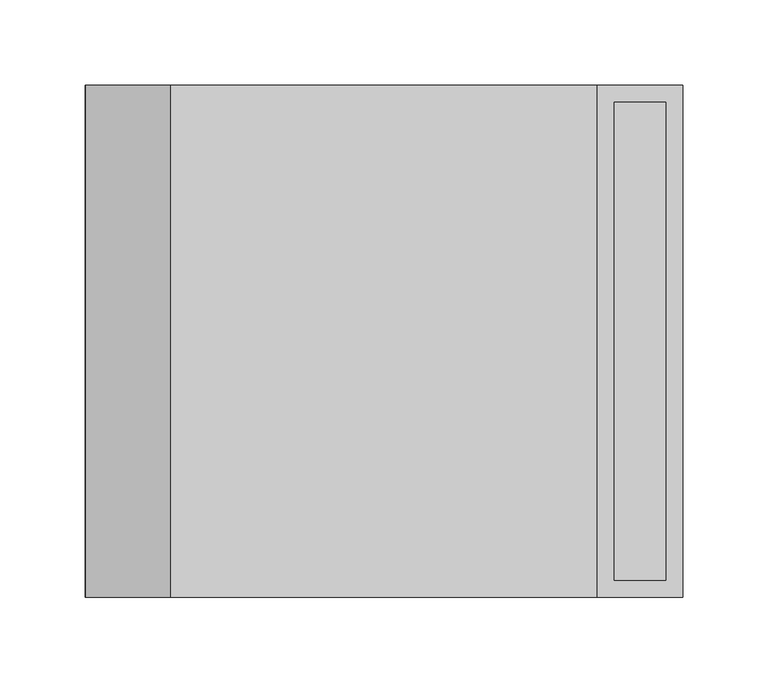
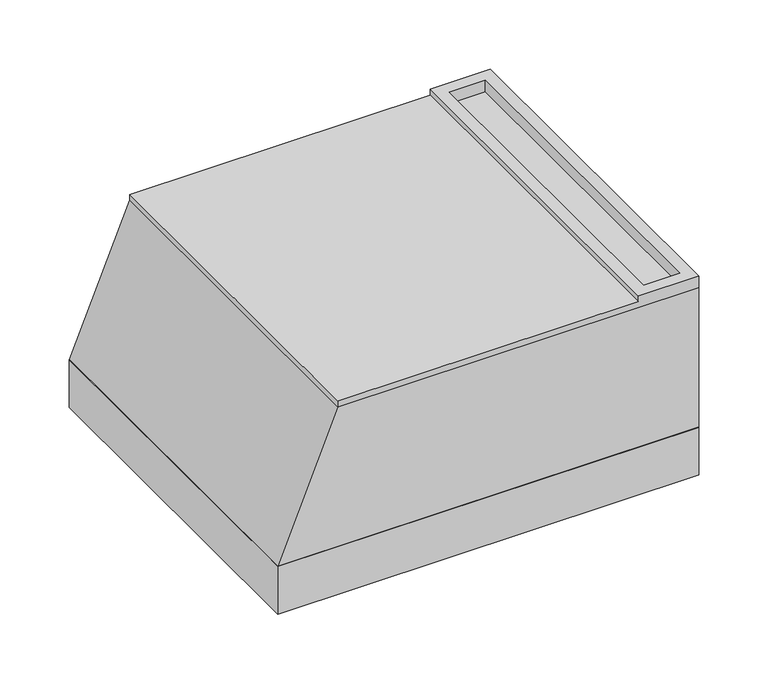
"""IFC4 building model written with IfcOpenShell, lengths in millimetres: cable carrier fitting geometry, BAKS_Universal elbow : KRUMJ_H42."""

import ifcopenshell
import ifcopenshell.guid

model = None  # the IFC model being written
_history = None  # IfcOwnerHistory: only IFC2X3 demands one
_inside = {}  # id of a spatial element -> (the spatial element, [elements in it])
_under = {}  # id of a project, library or spatial element -> (it, [spatial elements below it])
_declared = {}  # id of a project -> (the project, [libraries it declares])
_typed = {}  # id of a type object -> (the type object, [elements of that type])
_made_of = {}  # id of a material, layer set ... -> (it, [elements and type objects made of it])


def new_model(schema):
    """Start an empty IFC model of exactly this schema.

    Asked for "IFC4X3", IfcOpenShell would pick the latest addendum, in which some entities
    have other attributes; the version numbers below select the first issue.
    IFC2X3 requires an IfcOwnerHistory on every rooted entity: one is made here for all.
    """
    global model, _history
    if schema == "IFC4X3":
        model = ifcopenshell.file(schema_version=(4, 3, 0, 0))
    else:
        model = ifcopenshell.file(schema=schema)
    _inside.clear()
    _under.clear()
    _declared.clear()
    _typed.clear()
    _made_of.clear()
    _history = None
    if model.schema == "IFC2X3":
        org = make("IfcOrganization", Name="unknown")
        user = make(
            "IfcPersonAndOrganization",
            ThePerson=make("IfcPerson", FamilyName="unknown"),
            TheOrganization=org,
        )
        app = make(
            "IfcApplication",
            ApplicationDeveloper=org,
            Version="unknown",
            ApplicationFullName="unknown",
            ApplicationIdentifier="unknown",
        )
        _history = make(
            "IfcOwnerHistory",
            OwningUser=user,
            OwningApplication=app,
            ChangeAction="ADDED",
            CreationDate=0,
        )
    return model


def make(cls, **values):
    """One entity of the class cls with the attributes given. An attribute that is None is left unset."""
    return model.create_entity(
        cls, **{name: value for name, value in values.items() if value is not None}
    )


def rooted(cls, **values):
    """An entity with a GlobalId (a new one), such as an element, a storey or a relation."""
    return make(cls, GlobalId=ifcopenshell.guid.new(), OwnerHistory=_history, **values)


def si_unit(unit_type, name, prefix=None):
    """IfcSIUnit, for example si_unit("LENGTHUNIT", "METRE", prefix="MILLI")."""
    return make("IfcSIUnit", UnitType=unit_type, Prefix=prefix, Name=name)


def assignment(units):
    """IfcUnitAssignment: the units of a project."""
    return None if units is None else make("IfcUnitAssignment", Units=units)


def point(xyz):
    """IfcCartesianPoint."""
    return None if xyz is None else make("IfcCartesianPoint", Coordinates=xyz)


def direction(xyz):
    """IfcDirection."""
    return None if xyz is None else make("IfcDirection", DirectionRatios=xyz)


def frame(location, z_axis=None, x_axis=None):
    """IfcAxis2Placement3D, a coordinate frame: its origin and axes. An axis left out is left unset."""
    return make(
        "IfcAxis2Placement3D",
        Location=point(location),
        Axis=direction(z_axis),
        RefDirection=direction(x_axis),
    )


def origin():
    """The frame at (0, 0, 0) with its axes left unset."""
    return frame((0.0, 0.0, 0.0))


def place(relative_to, where):
    """IfcLocalPlacement: puts the frame where relative to a parent placement (None: the world)."""
    return make(
        "IfcLocalPlacement", PlacementRelTo=relative_to, RelativePlacement=where
    )


def context(
    kind, dimensions, precision=None, world=None, true_north=None, identifier=None
):
    """IfcGeometricRepresentationContext, for example the 3D "Model" context."""
    return make(
        "IfcGeometricRepresentationContext",
        ContextIdentifier=identifier,
        ContextType=kind,
        CoordinateSpaceDimension=dimensions,
        Precision=precision,
        WorldCoordinateSystem=world,
        TrueNorth=true_north,
    )


def project(units=None, contexts=None):
    """IfcProject with its units and contexts."""
    return rooted(
        "IfcProject",
        Name="project",
        RepresentationContexts=contexts,
        UnitsInContext=assignment(units),
    )


def spatial(cls, under=None, at=None, **own):
    """A site, building, storey or space (cls), placed at a placement, below another one or the project."""
    s = rooted(cls, ObjectPlacement=at, **own)
    if under is not None:
        _under.setdefault(under.id(), (under, []))[1].append(s)
    return s


def polyline(points):
    """IfcPolyline through the points."""
    return make("IfcPolyline", Points=[point(p) for p in points])


def outline(outer, holes=None, kind="AREA"):
    """IfcArbitraryClosedProfileDef: a profile drawn as a closed curve; with holes, ...WithVoids."""
    if holes is None:
        return make("IfcArbitraryClosedProfileDef", ProfileType=kind, OuterCurve=outer)
    return make(
        "IfcArbitraryProfileDefWithVoids",
        ProfileType=kind,
        OuterCurve=outer,
        InnerCurves=holes,
    )


def extrude(swept, where, along, depth):
    """IfcExtrudedAreaSolid: the profile swept, set in the frame where, extruded along a direction by depth."""
    return make(
        "IfcExtrudedAreaSolid",
        SweptArea=swept,
        Position=where,
        ExtrudedDirection=direction(along),
        Depth=depth,
    )


def faces_of(points, faces, orient=None, outer=None):
    """IfcFace entities. A face is a list of loops; a loop is a list of indices into points, from 0.

    orient and outer hold one flag for each loop. By default every Orientation is true, the
    first loop of a face is its IfcFaceOuterBound and the others are IfcFaceBound.
    """
    made = []
    for i, loops in enumerate(faces):
        bounds = []
        for j, loop in enumerate(loops):
            is_outer = j == 0 if outer is None else outer[i][j]
            bounds.append(
                make(
                    "IfcFaceOuterBound" if is_outer else "IfcFaceBound",
                    Bound=make("IfcPolyLoop", Polygon=[points[k] for k in loop]),
                    Orientation=True if orient is None else orient[i][j],
                )
            )
        made.append(make("IfcFace", Bounds=bounds))
    return made


def faceted_brep(points, faces, orient=None, outer=None, voids=None):
    """IfcFacetedBrep: a solid bounded by flat faces; with voids (closed shells), ...WithVoids."""
    shared = [point(p) for p in points]
    hull = make("IfcClosedShell", CfsFaces=faces_of(shared, faces, orient, outer))
    if voids is None:
        return make("IfcFacetedBrep", Outer=hull)
    return make(
        "IfcFacetedBrepWithVoids",
        Outer=hull,
        Voids=[
            make(cls, CfsFaces=faces_of(shared, fs, o, b)) for cls, fs, o, b in voids
        ],
    )


def shape(context_of_items, identifier, shape_type, items):
    """IfcShapeRepresentation: the items that make up one representation, for example the "Body"."""
    return make(
        "IfcShapeRepresentation",
        ContextOfItems=context_of_items,
        RepresentationIdentifier=identifier,
        RepresentationType=shape_type,
        Items=items,
    )


def source(mapping_origin, context_of_items, identifier, shape_type, items):
    """IfcRepresentationMap: a shape defined once, which mapped items show again and again."""
    return make(
        "IfcRepresentationMap",
        MappingOrigin=mapping_origin,
        MappedRepresentation=shape(context_of_items, identifier, shape_type, items),
    )


def transform(
    local_origin,
    x_axis=None,
    y_axis=None,
    z_axis=None,
    scale=None,
    scale2=None,
    scale3=None,
    uniform=True,
):
    """IfcCartesianTransformationOperator3D, or its non-uniform kind. x_axis, y_axis, z_axis: its Axis1, 2, 3."""
    if uniform:
        return make(
            "IfcCartesianTransformationOperator3D",
            Axis1=direction(x_axis),
            Axis2=direction(y_axis),
            LocalOrigin=point(local_origin),
            Scale=scale,
            Axis3=direction(z_axis),
        )
    return make(
        "IfcCartesianTransformationOperator3DnonUniform",
        Axis1=direction(x_axis),
        Axis2=direction(y_axis),
        LocalOrigin=point(local_origin),
        Scale=scale,
        Axis3=direction(z_axis),
        Scale2=scale2,
        Scale3=scale3,
    )


def mapped(mapping_source, mapping_target):
    """IfcMappedItem: shows the shape of a source again, moved by a transform."""
    return make(
        "IfcMappedItem", MappingSource=mapping_source, MappingTarget=mapping_target
    )


def made_of(thing, what):
    """Note that an element or type object is made of a material, layer set ...; save() writes the relation."""
    if what is not None:
        _made_of.setdefault(what.id(), (what, []))[1].append(thing)
    return thing


def element(
    cls,
    number,
    at=None,
    inside=None,
    cuts=None,
    type_object=None,
    material=None,
    context=None,
    identifier="Body",
    shape_type=None,
    held_by="IfcProductDefinitionShape",
    body=None,
    shapes=None,
    **own,
):
    """One element of the class cls, such as IfcWall. Its Tag is "e" and its number.

    at: its placement. inside: the storey or other place that contains it. cuts: it is an
    opening in that element (IfcRelVoidsElement). A single representation is given by context,
    identifier, shape_type and body (its items); several are given by shapes. held_by: the class
    of the entity that holds the representations. save() writes the other relations.
    """
    e = rooted(cls, Tag="e%d" % number, ObjectPlacement=at, **own)
    if body is not None:
        shapes = [shape(context, identifier, shape_type, body)]
    if shapes is not None:
        e.Representation = make(held_by, Representations=shapes)
    if inside is not None:
        _inside.setdefault(inside.id(), (inside, []))[1].append(e)
    if cuts is not None:
        rooted(
            "IfcRelVoidsElement", RelatingBuildingElement=cuts, RelatedOpeningElement=e
        )
    if type_object is not None:
        _typed.setdefault(type_object.id(), (type_object, []))[1].append(e)
    return made_of(e, material)


def aggregate(whole, parts):
    """IfcRelAggregates: a whole, such as a stair, and the parts it consists of."""
    return rooted("IfcRelAggregates", RelatingObject=whole, RelatedObjects=parts)


def save(model, path):
    """Write the relations noted so far, then the file.

    IfcRelAggregates (storeys below a building ...), IfcRelContainedInSpatialStructure (elements
    in a storey), IfcRelDefinesByType, IfcRelAssociatesMaterial and IfcRelDeclares: one each for
    every whole, place, type object, material and project.
    """
    for whole, parts in _under.values():
        aggregate(whole, parts)
    for where, things in _inside.values():
        rooted(
            "IfcRelContainedInSpatialStructure",
            RelatedElements=things,
            RelatingStructure=where,
        )
    for kind, things in _typed.values():
        rooted("IfcRelDefinesByType", RelatedObjects=things, RelatingType=kind)
    for what, things in _made_of.values():
        rooted("IfcRelAssociatesMaterial", RelatedObjects=things, RelatingMaterial=what)
    for by, libraries in _declared.values():
        rooted("IfcRelDeclares", RelatingContext=by, RelatedDefinitions=libraries)
    model.write(path)


def cable_carrier_fitting_881c8fdb(model_context):
    return source(origin(), model_context, "Body", "SolidModel", [
        faceted_brep([(50.0, 150.0, 149.0), (50.0, -150.0, 149.0), (300.0, -150.0, 149.0), (300.0, 150.0, 149.0), (50.0, 150.0, 144.0), (350.0, 150.0, 144.0), (350.0, -150.0, 144.0), (50.0, -150.0, 144.0), (310.0, 140.0, 144.0), (310.0, -140.0, 144.0), (340.0, -140.0, 144.0), (340.0, 140.0, 144.0), (350.0, -150.0, 154.0), (300.0, -150.0, 154.0), (350.0, 150.0, 154.0), (300.0, 150.0, 154.0), (310.0, -140.0, 154.0), (310.0, 140.0, 154.0), (340.0, 140.0, 154.0), (340.0, -140.0, 154.0)], [[[0, 1, 2, 3]], [[4, 5, 6, 7], [8, 9, 10, 11]], [[1, 0, 4, 7]], [[7, 6, 12, 13, 2, 1]], [[6, 5, 14, 12]], [[5, 4, 0, 3, 15, 14]], [[15, 13, 12, 14], [16, 17, 18, 19]], [[13, 15, 3, 2]], [[16, 9, 8, 17]], [[9, 16, 19, 10]], [[10, 19, 18, 11]], [[17, 8, 11, 18]]]),
        extrude(outline(polyline([(350.0, 150.0), (350.0, -150.0), (0.0, -150.0), (0.0, 150.0), (350.0, 150.0)])), frame((0.0, 0.0, -21.0), z_axis=(0.0, 0.0, 1.0), x_axis=(1.0, 0.0, 0.0)), (0.0, 0.0, 1.0), 42.0),
        extrude(outline(polyline([(21.0, 0.0), (21.0, 350.0), (144.0, 350.0), (144.0, 50.0), (21.0, 0.0)])), frame((0.0, -150.0, 0.0), z_axis=(0.0, 1.0, 0.0), x_axis=(0.0, 0.0, 1.0)), (0.0, 0.0, 1.0), 300.0),
    ])


if __name__ == "__main__":
    model = new_model("IFC4")
    model_context = context("Model", 3, world=origin())
    ifc_project = project(units=[si_unit("LENGTHUNIT", "METRE", prefix="MILLI")], contexts=[model_context])
    site = spatial("IfcSite", under=ifc_project)
    building = spatial("IfcBuilding", under=site)
    placement = place(None, origin())
    cable_carrier_fitting_shape = cable_carrier_fitting_881c8fdb(model_context)
    element("IfcCableCarrierFitting", 1, ObjectType="BAKS_Universal elbow : KRUMJ_H42", at=placement, inside=building, context=model_context, shape_type="MappedRepresentation", body=[
        mapped(cable_carrier_fitting_shape, transform((0.0, 0.0, 0.0), x_axis=(1.0, 0.0, 0.0), y_axis=(0.0, 1.0, 0.0), z_axis=(0.0, 0.0, 1.0))),
    ])
    save(model, "model.ifc")
